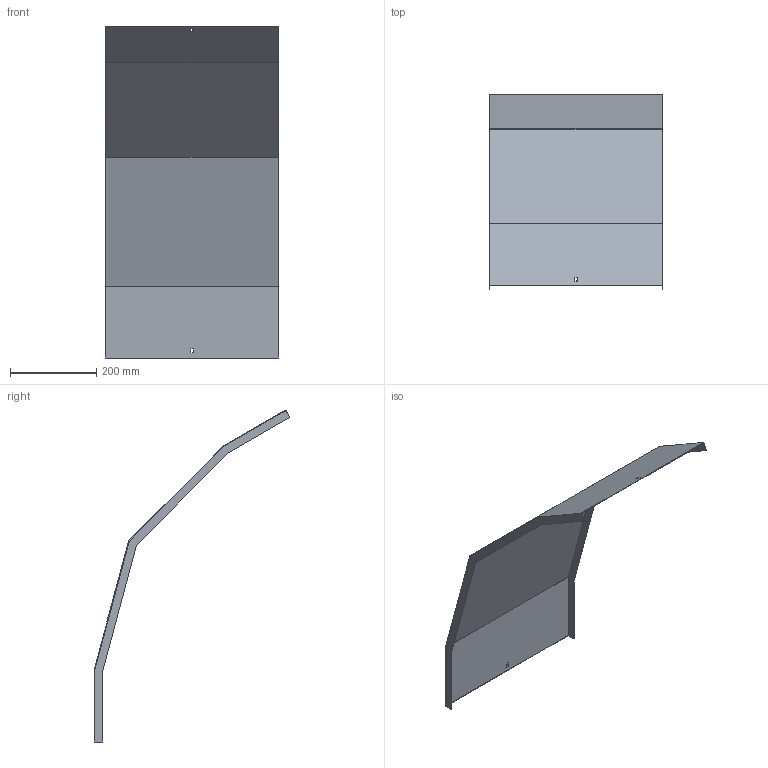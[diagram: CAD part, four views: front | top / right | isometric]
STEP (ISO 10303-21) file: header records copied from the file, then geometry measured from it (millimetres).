
FILE_DESCRIPTION (( 'STEP AP214' ), '1' );
FILE_NAME ('41N5J400.step', '2025-02-21T10:38:43', ( '' ), ( '' ), 'SwSTEP 2.0', 'SolidWorks 2023', '' );
FILE_SCHEMA (( 'AUTOMOTIVE_DESIGN' ));
Length unit declared in the file: millimetre
Products named in the file (1): 41N5J400
Bounding box: 403 x 454.7 x 770.25 mm (x, y, z)
Volume: 629174 mm3; surface area: 843116 mm2
Topology: 1 solids, 1 shells, 30 faces, 84 edges, 56 vertices
Faces by surface type: plane 30
Entity records: 979 total; most frequent: CARTESIAN_POINT 171, ORIENTED_EDGE 168, DIRECTION 146, LINE 84, EDGE_CURVE 84, VECTOR 84, VERTEX_POINT 56, EDGE_LOOP 34
